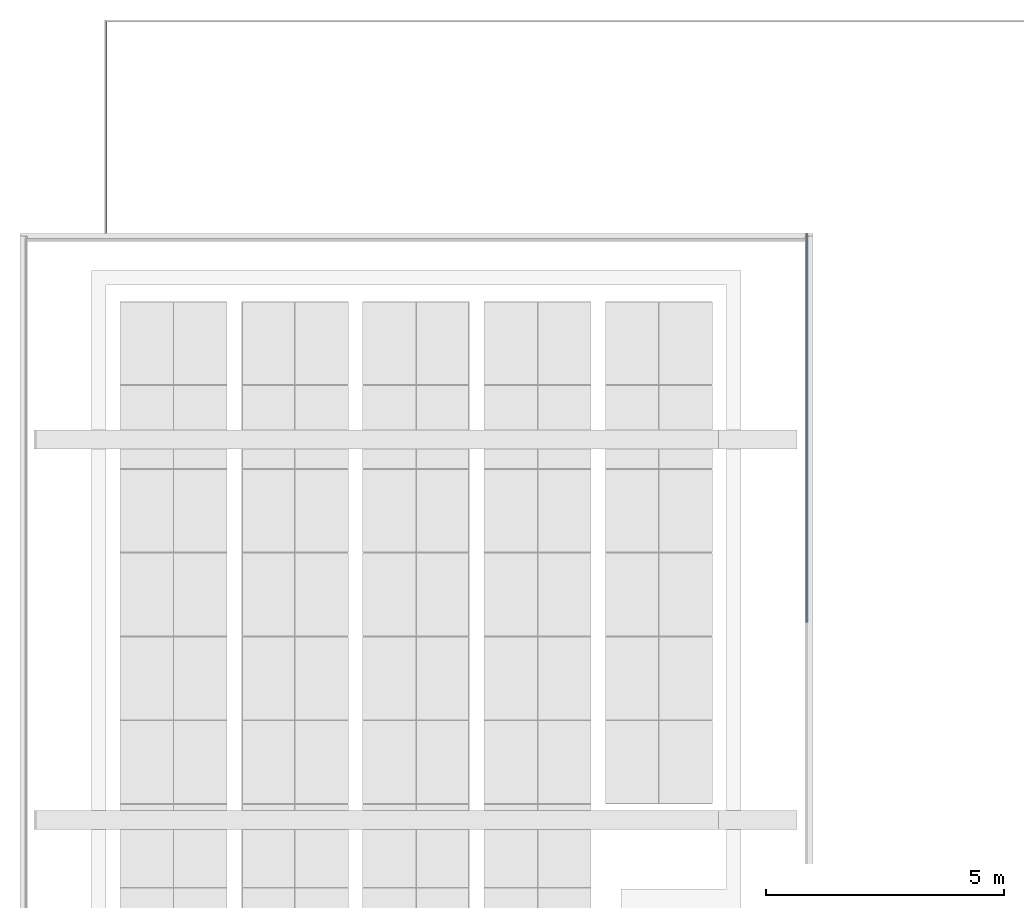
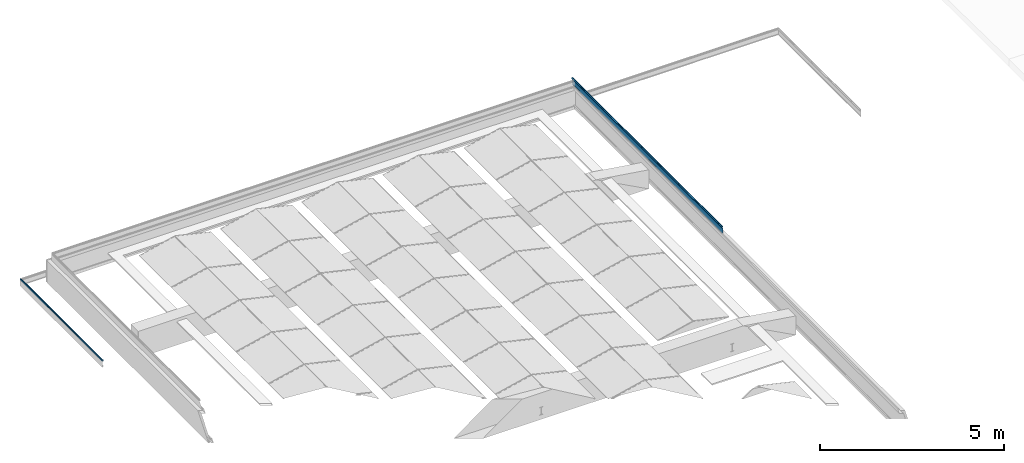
# One storey, part 11 of 25: 3 building element parts, 2 elements without a shape of their own.
"""IFC2X3 building model written with IfcOpenShell, lengths in millimetres."""

from ifc_helpers import new_model, entity, si_unit, converted_unit, derived_unit, money_unit, direction, frame, origin_with_axes, place, context, subcontext, project, spatial, faceted_brep, material, type_object, element, aggregate, save


model = new_model("IFC2X3")

# Units and contexts
model_context = context("Model", 3, precision=0.01, world=origin_with_axes(), true_north=direction((0.0, 1.0)))
body_context = subcontext(model_context, "Body", "Model", "MODEL_VIEW")
ifc_project = project(units=[si_unit("LENGTHUNIT", "METRE", prefix="MILLI"), si_unit("AREAUNIT", "SQUARE_METRE"), si_unit("VOLUMEUNIT", "CUBIC_METRE"), converted_unit("PLANEANGLEUNIT", "DEGREE", entity("IfcPlaneAngleMeasure", 0.0174532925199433), si_unit("PLANEANGLEUNIT", "RADIAN"), dimensions=[0, 0, 0, 0, 0, 0, 0]), money_unit("EUR"), converted_unit("TIMEUNIT", "Year", entity("IfcTimeMeasure", 31557600.0), si_unit("TIMEUNIT", "SECOND"), dimensions=[0, 0, 1, 0, 0, 0, 0]), si_unit("MASSUNIT", "GRAM", prefix="KILO"), si_unit("THERMODYNAMICTEMPERATUREUNIT", "DEGREE_CELSIUS"), si_unit("LUMINOUSINTENSITYUNIT", "LUMEN"), si_unit("ENERGYUNIT", "JOULE", prefix="MEGA"), derived_unit("THERMALCONDUCTANCEUNIT", [(si_unit("POWERUNIT", "WATT"), 1), (si_unit("LENGTHUNIT", "METRE"), -1), (si_unit("THERMODYNAMICTEMPERATUREUNIT", "KELVIN"), -1)]), derived_unit("SPECIFICHEATCAPACITYUNIT", [(si_unit("ENERGYUNIT", "JOULE"), 1), (si_unit("MASSUNIT", "GRAM", prefix="KILO"), -1), (si_unit("THERMODYNAMICTEMPERATUREUNIT", "KELVIN"), -1)]), derived_unit("MASSDENSITYUNIT", [(si_unit("MASSUNIT", "GRAM", prefix="KILO"), 1), (si_unit("VOLUMEUNIT", "CUBIC_METRE"), -1)])], contexts=[model_context])

# Site, building, storey
site_placement = place(None, origin_with_axes())
site = spatial("IfcSite", under=ifc_project, at=site_placement, Name="<site naam>", CompositionType="ELEMENT")
building_placement = place(site_placement, origin_with_axes())
building = spatial("IfcBuilding", under=site, at=building_placement, Name="<Naam gebouw>", CompositionType="ELEMENT")
storey_placement = place(building_placement, frame((0.0, 0.0, 9563.0), z_axis=(0.0, 0.0, 1.0), x_axis=(1.0, 0.0, 0.0)))
storey = spatial("IfcBuildingStorey", under=building, at=storey_placement, Name="03 3e tussenverdieping", CompositionType="ELEMENT", Elevation=9563.0)

# Beam, building element part
beam_type = type_object("IfcBeamType", Name="Aluminium daktrim 45 x 250", PredefinedType="BEAM")
beam_1_placement = place(storey_placement, frame((-10654.07536898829, 24924.99654780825, -5292.000000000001), z_axis=(0.0, 0.0, 1.0), x_axis=(-1.0, 0.0, 0.0)))
beam_1 = element("IfcBeam", 1, at=beam_1_placement, inside=storey, type_object=beam_type, Name="47_Balk_Aluminium", ObjectType="BEAM")
ifc_material = material(Name="aluminium")
building_element_part_1_placement = place(beam_1_placement, origin_with_axes())
building_element_part_1 = element("IfcBuildingElementPart", 2, at=building_element_part_1_placement, material=ifc_material, Name="aluminium", context=body_context, shape_type="Brep", body=[
    faceted_brep([(-121.4991945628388, 4589.996550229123, 294.0656451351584), (-122.2068758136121, 4589.996550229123, 293.7721760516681), (-122.2068758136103, 122.2068758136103, 293.7721760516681), (-121.4991945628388, 121.499194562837, 294.0656451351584), (-110.9991946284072, 4589.996550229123, 294.0656451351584), (-110.2920878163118, 4589.996550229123, 293.7727519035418), (-109.9991945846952, 4589.996550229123, 293.0656450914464), (-109.9991945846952, 4589.996550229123, 250.065645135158), (-110.2920878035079, 4589.996550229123, 249.3585383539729), (-110.9991945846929, 4589.996550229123, 249.0656451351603), (-111.4991731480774, 4589.996550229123, 249.1996073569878), (-117.6977781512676, 4589.996550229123, 252.7781690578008), (-117.9774779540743, 4589.996550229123, 253.142634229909), (-117.9175736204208, 4589.996550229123, 253.598132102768), (-117.5531500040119, 4589.996550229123, 253.8778860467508), (-117.0976432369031, 4589.996550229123, 253.8180493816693), (-113.8976320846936, 4589.996550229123, 251.9718951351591), (-113.8976320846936, 4589.996550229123, 252.5656451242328), (-113.7511854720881, 4589.996550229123, 252.9191985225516), (-113.3976320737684, 4589.996550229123, 253.0656451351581), (-113.1984133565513, 4589.996550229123, 253.0656451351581), (-112.8448599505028, 4589.996550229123, 252.9191985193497), (-112.6984133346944, 4589.996550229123, 252.5656451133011), (-112.6984133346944, 4589.996550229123, 251.2785357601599), (-111.9489165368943, 4589.996550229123, 250.8452329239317), (-111.6116899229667, 4589.996550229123, 250.7856033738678), (-111.3150643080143, 4589.996550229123, 250.9567486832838), (-111.1979101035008, 4589.996550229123, 251.2785442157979), (-111.1984133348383, 4589.996550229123, 281.0656535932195), (-111.3448629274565, 4589.996550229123, 281.4192015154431), (-111.6984133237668, 4589.996550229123, 281.5656451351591), (-112.1984133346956, 4589.996550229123, 281.5656451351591), (-112.5519667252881, 4589.996550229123, 281.4191985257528), (-112.6984133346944, 4589.996550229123, 281.0656451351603), (-112.6984133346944, 4589.996550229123, 279.565645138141), (-112.8448599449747, 4589.996550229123, 279.2120917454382), (-113.1984133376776, 4589.996550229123, 279.0656451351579), (-114.9718508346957, 4589.996550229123, 279.0656451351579), (-120.1773366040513, 4589.996550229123, 275.7461395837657), (-120.3116945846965, 4589.996550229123, 275.4250201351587), (-120.5695070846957, 4589.996550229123, 275.3156451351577), (-120.889819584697, 4589.996550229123, 275.4484576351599), (-121.5401955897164, 4589.996550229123, 275.2060759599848), (-121.694507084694, 4589.996550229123, 274.8976763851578), (-121.9640383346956, 4589.996550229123, 274.8078326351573), (-122.2726320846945, 4589.996550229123, 274.9640826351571), (-128.1981216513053, 4589.996550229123, 274.0660308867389), (-154.6486035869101, 4589.996550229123, 274.0656451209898), (-154.8951277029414, 4589.996550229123, 274.1677553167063), (-154.9972414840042, 4589.996550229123, 274.4142779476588), (-154.8947842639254, 4589.996550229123, 274.6611444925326), (-154.6476320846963, 4589.996550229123, 274.7629107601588), (-149.9991945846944, 4589.996550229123, 275.264863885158), (-149.698413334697, 4589.996550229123, 275.5656451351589), (-147.2999758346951, 4589.996550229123, 275.5656451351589), (-146.9991945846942, 4589.996550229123, 275.264863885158), (-143.9991945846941, 4589.996550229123, 275.264863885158), (-143.6984133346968, 4589.996550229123, 275.5656451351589), (-141.2999758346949, 4589.996550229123, 275.5656451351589), (-140.9991945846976, 4589.996550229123, 275.264863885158), (-137.9991945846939, 4589.996550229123, 275.264863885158), (-137.6984133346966, 4589.996550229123, 275.5656451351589), (-135.2999758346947, 4589.996550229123, 275.5656451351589), (-134.9991945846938, 4589.996550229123, 275.264863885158), (-131.9991945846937, 4589.996550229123, 275.264863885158), (-131.6984133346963, 4589.996550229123, 275.5656451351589), (-129.2999758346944, 4589.996550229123, 275.5656451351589), (-128.9991945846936, 4589.996550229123, 275.264863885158), (-128.1984107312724, 4589.996550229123, 275.264863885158), (-120.0158638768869, 4589.996550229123, 277.1388822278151), (-113.4645529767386, 4589.996550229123, 282.3873432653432), (-112.6841977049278, 4589.996550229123, 282.7641787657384), (-112.1970030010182, 4589.996550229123, 282.7648658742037), (-111.4908083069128, 4589.996550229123, 283.0582564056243), (-111.1984133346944, 4589.996550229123, 283.7648638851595), (-111.1984133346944, 4589.996550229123, 292.3664263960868), (-111.3448599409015, 4589.996550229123, 292.719979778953), (-111.6984133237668, 4589.996550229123, 292.8664263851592), (-120.7999758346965, 4589.996550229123, 292.8664263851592), (-121.153529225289, 4589.996550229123, 292.7199797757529), (-121.2999758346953, 4589.996550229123, 292.3664263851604), (-121.2999758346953, 4589.996550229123, 290.6652544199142), (-121.4748532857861, 4589.996550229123, 290.2428198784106), (-121.897145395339, 4589.996550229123, 290.0675987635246), (-122.3197220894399, 4589.996550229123, 290.2421324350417), (-122.4952867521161, 4589.996550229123, 290.6642818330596), (-122.4991919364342, 4589.996550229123, 293.0640177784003), (-122.4991919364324, 122.4991919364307, 293.0640177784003), (-122.4952867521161, 122.4952867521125, 290.6642818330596), (-122.3197220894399, 122.3197220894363, 290.2421324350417), (-121.8971453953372, 121.8971453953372, 290.0675987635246), (-121.4748532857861, 121.4748532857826, 290.2428198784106), (-121.2999758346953, 121.2999758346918, 290.6652544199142), (-121.2999758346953, 121.2999758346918, 292.3664263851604), (-121.153529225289, 121.1535292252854, 292.7199797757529), (-120.7999758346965, 120.7999758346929, 292.8664263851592), (-111.6984133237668, 111.6984133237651, 292.8664263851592), (-111.3448599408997, 111.3448599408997, 292.719979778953), (-111.1984133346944, 111.1984133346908, 292.3664263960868), (-111.1984133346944, 111.1984133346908, 283.7648638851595), (-111.490808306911, 111.490808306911, 283.0582564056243), (-112.1970030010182, 112.1970030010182, 282.7648658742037), (-112.6841977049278, 112.684197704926, 282.7641787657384), (-113.4645529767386, 113.4645529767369, 282.3873432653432), (-120.0158638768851, 120.0158638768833, 277.1388822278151), (-128.1984107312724, 128.1984107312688, 275.264863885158), (-128.9991945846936, 128.99919458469, 275.264863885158), (-129.2999758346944, 129.2999758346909, 275.5656451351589), (-131.6984133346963, 131.6984133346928, 275.5656451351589), (-131.9991945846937, 131.9991945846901, 275.264863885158), (-134.9991945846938, 134.9991945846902, 275.264863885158), (-135.2999758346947, 135.2999758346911, 275.5656451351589), (-137.6984133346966, 137.698413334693, 275.5656451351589), (-137.9991945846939, 137.9991945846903, 275.264863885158), (-140.9991945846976, 140.999194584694, 275.264863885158), (-141.2999758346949, 141.2999758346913, 275.5656451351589), (-143.6984133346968, 143.6984133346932, 275.5656451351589), (-143.9991945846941, 143.9991945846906, 275.264863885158), (-146.9991945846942, 146.9991945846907, 275.264863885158), (-147.2999758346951, 147.2999758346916, 275.5656451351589), (-149.698413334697, 149.6984133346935, 275.5656451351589), (-149.9991945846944, 149.9991945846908, 275.264863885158), (-154.6476320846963, 154.6476320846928, 274.7629107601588), (-154.8947842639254, 154.8947842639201, 274.6611444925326), (-154.9972414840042, 154.9972414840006, 274.4142779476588), (-154.8951277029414, 154.8951277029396, 274.1677553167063), (-154.6486035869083, 154.6486035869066, 274.0656451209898), (-128.1981216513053, 128.1981216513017, 274.0660308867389), (-122.2726320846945, 122.272632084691, 274.9640826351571), (-121.9640383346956, 121.964038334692, 274.8078326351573), (-121.694507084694, 121.6945070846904, 274.8976763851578), (-121.5401955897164, 121.5401955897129, 275.2060759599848), (-120.889819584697, 120.8898195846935, 275.4484576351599), (-120.5695070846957, 120.5695070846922, 275.3156451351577), (-120.3116945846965, 120.3116945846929, 275.4250201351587), (-120.1773366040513, 120.1773366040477, 275.7461395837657), (-114.9718508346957, 114.9718508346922, 279.0656451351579), (-113.1984133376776, 113.198413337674, 279.0656451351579), (-112.8448599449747, 112.8448599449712, 279.2120917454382), (-112.6984133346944, 112.6984133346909, 279.565645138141), (-112.6984133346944, 112.6984133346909, 281.0656451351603), (-112.5519667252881, 112.5519667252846, 281.4191985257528), (-112.1984133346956, 112.198413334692, 281.5656451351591), (-111.6984133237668, 111.6984133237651, 281.5656451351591), (-111.3448629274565, 111.3448629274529, 281.4192015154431), (-111.1984133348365, 111.1984133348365, 281.0656535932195), (-111.1979101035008, 111.197910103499, 251.2785442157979), (-111.3150643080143, 111.3150643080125, 250.9567486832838), (-111.6116899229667, 111.6116899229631, 250.7856033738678), (-111.9489165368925, 111.9489165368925, 250.8452329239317), (-112.6984133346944, 112.6984133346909, 251.2785357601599), (-112.6984133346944, 112.6984133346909, 252.5656451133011), (-112.8448599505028, 112.8448599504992, 252.9191985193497), (-113.1984133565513, 113.1984133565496, 253.0656451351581), (-113.3976320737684, 113.3976320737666, 253.0656451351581), (-113.7511854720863, 113.7511854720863, 252.9191985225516), (-113.8976320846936, 113.8976320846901, 252.5656451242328), (-113.8976320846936, 113.8976320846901, 251.9718951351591), (-117.0976432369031, 117.0976432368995, 253.8180493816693), (-117.5531500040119, 117.5531500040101, 253.8778860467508), (-117.917573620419, 117.9175736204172, 253.598132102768), (-117.9774779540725, 117.9774779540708, 253.142634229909), (-117.6977781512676, 117.697778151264, 252.7781690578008), (-111.4991731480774, 111.4991731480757, 249.1996073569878), (-110.9991945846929, 110.9991945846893, 249.0656451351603), (-110.2920878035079, 110.2920878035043, 249.3585383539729), (-109.9991945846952, 109.9991945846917, 250.065645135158), (-109.9991945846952, 109.9991945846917, 293.0656450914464), (-110.2920878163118, 110.2920878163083, 293.7727519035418), (-110.9991946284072, 110.9991946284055, 294.0656451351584)], [[[0, 1, 2, 3]], [[0, 4, 5, 6, 7, 8, 9, 10, 11, 12, 13, 14, 15, 16, 17, 18, 19, 20, 21, 22, 23, 24, 25, 26, 27, 28, 29, 30, 31, 32, 33, 34, 35, 36, 37, 38, 39, 40, 41, 42, 43, 44, 45, 46, 47, 48, 49, 50, 51, 52, 53, 54, 55, 56, 57, 58, 59, 60, 61, 62, 63, 64, 65, 66, 67, 68, 69, 70, 71, 72, 73, 74, 75, 76, 77, 78, 79, 80, 81, 82, 83, 84, 85, 86, 1]], [[1, 86, 87, 2]], [[3, 2, 87, 88, 89, 90, 91, 92, 93, 94, 95, 96, 97, 98, 99, 100, 101, 102, 103, 104, 105, 106, 107, 108, 109, 110, 111, 112, 113, 114, 115, 116, 117, 118, 119, 120, 121, 122, 123, 124, 125, 126, 127, 128, 129, 130, 131, 132, 133, 134, 135, 136, 137, 138, 139, 140, 141, 142, 143, 144, 145, 146, 147, 148, 149, 150, 151, 152, 153, 154, 155, 156, 157, 158, 159, 160, 161, 162, 163, 164, 165, 166, 167, 168, 169]], [[4, 0, 3, 169]], [[5, 4, 169, 168]], [[6, 5, 168, 167]], [[7, 6, 167, 166]], [[8, 7, 166, 165]], [[9, 8, 165, 164]], [[10, 9, 164, 163]], [[11, 10, 163, 162]], [[12, 11, 162, 161]], [[13, 12, 161, 160]], [[14, 13, 160, 159]], [[15, 14, 159, 158]], [[16, 15, 158, 157]], [[17, 16, 157, 156]], [[18, 17, 156, 155]], [[19, 18, 155, 154]], [[20, 19, 154, 153]], [[21, 20, 153, 152]], [[22, 21, 152, 151]], [[23, 22, 151, 150]], [[24, 23, 150, 149]], [[25, 24, 149, 148]], [[26, 25, 148, 147]], [[27, 26, 147, 146]], [[28, 27, 146, 145]], [[29, 28, 145, 144]], [[30, 29, 144, 143]], [[31, 30, 143, 142]], [[32, 31, 142, 141]], [[33, 32, 141, 140]], [[34, 33, 140, 139]], [[35, 34, 139, 138]], [[36, 35, 138, 137]], [[37, 36, 137, 136]], [[38, 37, 136, 135]], [[39, 38, 135, 134]], [[40, 39, 134, 133]], [[41, 40, 133, 132]], [[42, 41, 132, 131]], [[43, 42, 131, 130]], [[44, 43, 130, 129]], [[45, 44, 129, 128]], [[46, 45, 128, 127]], [[47, 46, 127, 126]], [[48, 47, 126, 125]], [[49, 48, 125, 124]], [[50, 49, 124, 123]], [[51, 50, 123, 122]], [[52, 51, 122, 121]], [[53, 52, 121, 120]], [[54, 53, 120, 119]], [[55, 54, 119, 118]], [[56, 55, 118, 117]], [[57, 56, 117, 116]], [[58, 57, 116, 115]], [[59, 58, 115, 114]], [[60, 59, 114, 113]], [[61, 60, 113, 112]], [[62, 61, 112, 111]], [[63, 62, 111, 110]], [[64, 63, 110, 109]], [[65, 64, 109, 108]], [[66, 65, 108, 107]], [[67, 66, 107, 106]], [[68, 67, 106, 105]], [[69, 68, 105, 104]], [[70, 69, 104, 103]], [[71, 70, 103, 102]], [[72, 71, 102, 101]], [[73, 72, 101, 100]], [[74, 73, 100, 99]], [[75, 74, 99, 98]], [[76, 75, 98, 97]], [[77, 76, 97, 96]], [[78, 77, 96, 95]], [[79, 78, 95, 94]], [[80, 79, 94, 93]], [[81, 80, 93, 92]], [[82, 81, 92, 91]], [[83, 82, 91, 90]], [[84, 83, 90, 89]], [[85, 84, 89, 88]], [[86, 85, 88, 87]]]),
])
aggregate(beam_1, [building_element_part_1])

# Beam, building element parts
beam_2_placement = place(storey_placement, frame((4335.04446815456, 12159.96567299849, -1057.000005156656), z_axis=(0.0, 0.0, 1.0), x_axis=(1.0, 0.0, 0.0)))
beam_2 = element("IfcBeam", 3, at=beam_2_placement, inside=storey, type_object=beam_type, Name="47_Balk_Aluminium", ObjectType="BEAM")
building_element_part_2_placement = place(beam_2_placement, origin_with_axes())
building_element_part_2 = element("IfcBuildingElementPart", 4, at=building_element_part_2_placement, material=ifc_material, Name="aluminium", context=body_context, shape_type="Brep", body=[
    faceted_brep([(-110.2920878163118, 0.01603068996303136, 293.7727519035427), (-109.9991945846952, 0.01603068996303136, 293.0656450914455), (-109.9991945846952, 8175.034324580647, 293.0656450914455), (-110.2920878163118, 8175.034324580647, 293.7727519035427), (-109.9991945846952, 0.01603068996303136, 250.0656451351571), (-110.9991946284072, 0.01603068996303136, 294.0656451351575), (-121.4991945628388, 0.01603068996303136, 294.0656451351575), (-122.2068758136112, 0.01603068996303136, 293.7721760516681), (-122.4991919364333, 0.01603068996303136, 293.0640177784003), (-122.4952867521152, 0.01603068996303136, 290.6642818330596), (-122.3197220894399, 0.01603068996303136, 290.2421324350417), (-121.8971453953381, 0.01603068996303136, 290.0675987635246), (-121.4748532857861, 0.01603068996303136, 290.2428198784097), (-121.2999758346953, 0.01603068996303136, 290.6652544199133), (-121.2999758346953, 0.01603068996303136, 292.3664263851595), (-121.153529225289, 0.01603068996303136, 292.7199797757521), (-120.7999758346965, 0.01603068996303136, 292.8664263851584), (-111.6984133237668, 0.01603068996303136, 292.8664263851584), (-111.3448599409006, 0.01603068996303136, 292.719979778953), (-111.1984133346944, 0.01603068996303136, 292.3664263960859), (-111.1984133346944, 0.01603068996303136, 283.7648638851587), (-111.490808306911, 0.01603068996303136, 283.0582564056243), (-112.1970030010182, 0.01603068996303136, 282.7648658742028), (-112.6841977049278, 0.01603068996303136, 282.7641787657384), (-113.4645529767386, 0.01603068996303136, 282.3873432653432), (-120.015863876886, 0.01603068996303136, 277.1388822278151), (-128.1984107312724, 0.01603068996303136, 275.2648638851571), (-128.9991945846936, 0.01603068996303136, 275.2648638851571), (-129.2999758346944, 0.01603068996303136, 275.565645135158), (-131.6984133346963, 0.01603068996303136, 275.565645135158), (-131.9991945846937, 0.01603068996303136, 275.2648638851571), (-134.9991945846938, 0.01603068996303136, 275.2648638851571), (-135.2999758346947, 0.01603068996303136, 275.565645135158), (-137.6984133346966, 0.01603068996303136, 275.565645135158), (-137.9991945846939, 0.01603068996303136, 275.2648638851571), (-140.9991945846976, 0.01603068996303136, 275.2648638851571), (-141.2999758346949, 0.01603068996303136, 275.565645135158), (-143.6984133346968, 0.01603068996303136, 275.565645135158), (-143.9991945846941, 0.01603068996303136, 275.2648638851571), (-146.9991945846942, 0.01603068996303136, 275.2648638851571), (-147.2999758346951, 0.01603068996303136, 275.565645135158), (-149.698413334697, 0.01603068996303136, 275.565645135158), (-149.9991945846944, 0.01603068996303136, 275.2648638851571), (-154.6476320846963, 0.01603068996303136, 274.7629107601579), (-154.8947842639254, 0.01603068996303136, 274.6611444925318), (-154.9972414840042, 0.01603068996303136, 274.4142779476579), (-154.8951277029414, 0.01603068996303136, 274.1677553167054), (-154.6486035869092, 0.01603068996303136, 274.0656451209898), (-128.1981216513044, 0.01603068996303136, 274.066030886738), (-122.2726320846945, 0.01603068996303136, 274.9640826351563), (-121.9640383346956, 0.01603068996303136, 274.8078326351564), (-121.694507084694, 0.01603068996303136, 274.897676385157), (-121.5401955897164, 0.01603068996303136, 275.2060759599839), (-120.889819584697, 0.01603068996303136, 275.448457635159), (-120.5695070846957, 0.01603068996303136, 275.3156451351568), (-120.3116945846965, 0.01603068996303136, 275.4250201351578), (-120.1773366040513, 0.01603068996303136, 275.7461395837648), (-114.9718508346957, 0.01603068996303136, 279.065645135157), (-113.1984133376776, 0.01603068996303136, 279.065645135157), (-112.8448599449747, 0.01603068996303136, 279.212091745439), (-112.6984133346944, 0.01603068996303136, 279.5656451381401), (-112.6984133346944, 0.01603068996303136, 281.0656451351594), (-112.5519667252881, 0.01603068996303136, 281.4191985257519), (-112.1984133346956, 0.01603068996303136, 281.5656451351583), (-111.6984133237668, 0.01603068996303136, 281.5656451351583), (-111.3448629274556, 0.01603068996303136, 281.419201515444), (-111.1984133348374, 0.01603068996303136, 281.0656535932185), (-111.1979101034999, 0.01603068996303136, 251.278544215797), (-111.3150643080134, 0.01603068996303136, 250.9567486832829), (-111.6116899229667, 0.01603068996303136, 250.7856033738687), (-111.9489165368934, 0.01603068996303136, 250.8452329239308), (-112.6984133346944, 0.01603068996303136, 251.278535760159), (-112.6984133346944, 0.01603068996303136, 252.5656451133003), (-112.8448599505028, 0.01603068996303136, 252.9191985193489), (-113.1984133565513, 0.01603068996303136, 253.0656451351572), (-113.3976320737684, 0.01603068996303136, 253.0656451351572), (-113.7511854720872, 0.01603068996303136, 252.9191985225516), (-113.8976320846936, 0.01603068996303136, 252.565645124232), (-113.8976320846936, 0.01603068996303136, 251.9718951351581), (-117.0976432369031, 0.01603068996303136, 253.8180493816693), (-117.5531500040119, 0.01603068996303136, 253.8778860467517), (-117.9175736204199, 0.01603068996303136, 253.598132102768), (-117.9774779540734, 0.01603068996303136, 253.1426342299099), (-117.6977781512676, 0.01603068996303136, 252.7781690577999), (-111.4991731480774, 0.01603068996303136, 249.1996073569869), (-110.9991945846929, 0.01603068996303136, 249.0656451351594), (-110.2920878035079, 0.01603068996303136, 249.3585383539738), (-109.9991945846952, 8175.034324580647, 250.0656451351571), (-122.2068758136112, 8175.034324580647, 293.7721760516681), (-121.4991945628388, 8175.034324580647, 294.0656451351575), (-110.9991946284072, 8175.034324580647, 294.0656451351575), (-110.2920878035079, 8175.034324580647, 249.3585383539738), (-110.9991945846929, 8175.034324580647, 249.0656451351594), (-111.4991731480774, 8175.034324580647, 249.1996073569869), (-117.6977781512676, 8175.034324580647, 252.7781690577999), (-117.9774779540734, 8175.034324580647, 253.1426342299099), (-117.9175736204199, 8175.034324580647, 253.598132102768), (-117.5531500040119, 8175.034324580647, 253.8778860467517), (-117.0976432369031, 8175.034324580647, 253.8180493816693), (-113.8976320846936, 8175.034324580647, 251.9718951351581), (-113.8976320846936, 8175.034324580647, 252.565645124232), (-113.7511854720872, 8175.034324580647, 252.9191985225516), (-113.3976320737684, 8175.034324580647, 253.0656451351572), (-113.1984133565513, 8175.034324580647, 253.0656451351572), (-112.8448599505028, 8175.034324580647, 252.9191985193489), (-112.6984133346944, 8175.034324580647, 252.5656451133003), (-112.6984133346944, 8175.034324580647, 251.278535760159), (-111.9489165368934, 8175.034324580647, 250.8452329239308), (-111.6116899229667, 8175.034324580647, 250.7856033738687), (-111.3150643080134, 8175.034324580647, 250.9567486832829), (-111.1979101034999, 8175.034324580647, 251.278544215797), (-111.1984133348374, 8175.034324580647, 281.0656535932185), (-111.3448629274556, 8175.034324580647, 281.419201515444), (-111.6984133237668, 8175.034324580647, 281.5656451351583), (-112.1984133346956, 8175.034324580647, 281.5656451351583), (-112.5519667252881, 8175.034324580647, 281.4191985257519), (-112.6984133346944, 8175.034324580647, 281.0656451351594), (-112.6984133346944, 8175.034324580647, 279.5656451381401), (-112.8448599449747, 8175.034324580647, 279.212091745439), (-113.1984133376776, 8175.034324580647, 279.065645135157), (-114.9718508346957, 8175.034324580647, 279.065645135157), (-120.1773366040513, 8175.034324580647, 275.7461395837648), (-120.3116945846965, 8175.034324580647, 275.4250201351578), (-120.5695070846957, 8175.034324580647, 275.3156451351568), (-120.889819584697, 8175.034324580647, 275.448457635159), (-121.5401955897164, 8175.034324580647, 275.2060759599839), (-121.694507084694, 8175.034324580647, 274.897676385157), (-121.9640383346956, 8175.034324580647, 274.8078326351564), (-122.2726320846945, 8175.034324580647, 274.9640826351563), (-128.1981216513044, 8175.034324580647, 274.066030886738), (-154.6486035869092, 8175.034324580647, 274.0656451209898), (-154.8951277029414, 8175.034324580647, 274.1677553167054), (-154.9972414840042, 8175.034324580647, 274.4142779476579), (-154.8947842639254, 8175.034324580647, 274.6611444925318), (-154.6476320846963, 8175.034324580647, 274.7629107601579), (-149.9991945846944, 8175.034324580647, 275.2648638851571), (-149.698413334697, 8175.034324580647, 275.565645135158), (-147.2999758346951, 8175.034324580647, 275.565645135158), (-146.9991945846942, 8175.034324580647, 275.2648638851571), (-143.9991945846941, 8175.034324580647, 275.2648638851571), (-143.6984133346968, 8175.034324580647, 275.565645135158), (-141.2999758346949, 8175.034324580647, 275.565645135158), (-140.9991945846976, 8175.034324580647, 275.2648638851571), (-137.9991945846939, 8175.034324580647, 275.2648638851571), (-137.6984133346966, 8175.034324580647, 275.565645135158), (-135.2999758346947, 8175.034324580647, 275.565645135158), (-134.9991945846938, 8175.034324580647, 275.2648638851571), (-131.9991945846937, 8175.034324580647, 275.2648638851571), (-131.6984133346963, 8175.034324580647, 275.565645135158), (-129.2999758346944, 8175.034324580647, 275.565645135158), (-128.9991945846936, 8175.034324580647, 275.2648638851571), (-128.1984107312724, 8175.034324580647, 275.2648638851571), (-120.015863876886, 8175.034324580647, 277.1388822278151), (-113.4645529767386, 8175.034324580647, 282.3873432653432), (-112.6841977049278, 8175.034324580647, 282.7641787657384), (-112.1970030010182, 8175.034324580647, 282.7648658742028), (-111.490808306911, 8175.034324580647, 283.0582564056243), (-111.1984133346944, 8175.034324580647, 283.7648638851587), (-111.1984133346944, 8175.034324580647, 292.3664263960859), (-111.3448599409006, 8175.034324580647, 292.719979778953), (-111.6984133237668, 8175.034324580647, 292.8664263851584), (-120.7999758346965, 8175.034324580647, 292.8664263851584), (-121.153529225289, 8175.034324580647, 292.7199797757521), (-121.2999758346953, 8175.034324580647, 292.3664263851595), (-121.2999758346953, 8175.034324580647, 290.6652544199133), (-121.4748532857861, 8175.034324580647, 290.2428198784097), (-121.8971453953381, 8175.034324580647, 290.0675987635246), (-122.3197220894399, 8175.034324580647, 290.2421324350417), (-122.4952867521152, 8175.034324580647, 290.6642818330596), (-122.4991919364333, 8175.034324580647, 293.0640177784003)], [[[0, 1, 2, 3]], [[4, 1, 0, 5, 6, 7, 8, 9, 10, 11, 12, 13, 14, 15, 16, 17, 18, 19, 20, 21, 22, 23, 24, 25, 26, 27, 28, 29, 30, 31, 32, 33, 34, 35, 36, 37, 38, 39, 40, 41, 42, 43, 44, 45, 46, 47, 48, 49, 50, 51, 52, 53, 54, 55, 56, 57, 58, 59, 60, 61, 62, 63, 64, 65, 66, 67, 68, 69, 70, 71, 72, 73, 74, 75, 76, 77, 78, 79, 80, 81, 82, 83, 84, 85, 86]], [[1, 4, 87, 2]], [[88, 89, 90, 3, 2, 87, 91, 92, 93, 94, 95, 96, 97, 98, 99, 100, 101, 102, 103, 104, 105, 106, 107, 108, 109, 110, 111, 112, 113, 114, 115, 116, 117, 118, 119, 120, 121, 122, 123, 124, 125, 126, 127, 128, 129, 130, 131, 132, 133, 134, 135, 136, 137, 138, 139, 140, 141, 142, 143, 144, 145, 146, 147, 148, 149, 150, 151, 152, 153, 154, 155, 156, 157, 158, 159, 160, 161, 162, 163, 164, 165, 166, 167, 168, 169]], [[5, 0, 3, 90]], [[6, 5, 90, 89]], [[7, 6, 89, 88]], [[8, 7, 88, 169]], [[9, 8, 169, 168]], [[10, 9, 168, 167]], [[11, 10, 167, 166]], [[12, 11, 166, 165]], [[13, 12, 165, 164]], [[14, 13, 164, 163]], [[15, 14, 163, 162]], [[16, 15, 162, 161]], [[17, 16, 161, 160]], [[18, 17, 160, 159]], [[19, 18, 159, 158]], [[20, 19, 158, 157]], [[21, 20, 157, 156]], [[22, 21, 156, 155]], [[23, 22, 155, 154]], [[24, 23, 154, 153]], [[25, 24, 153, 152]], [[26, 25, 152, 151]], [[27, 26, 151, 150]], [[28, 27, 150, 149]], [[29, 28, 149, 148]], [[30, 29, 148, 147]], [[31, 30, 147, 146]], [[32, 31, 146, 145]], [[33, 32, 145, 144]], [[34, 33, 144, 143]], [[35, 34, 143, 142]], [[36, 35, 142, 141]], [[37, 36, 141, 140]], [[38, 37, 140, 139]], [[39, 38, 139, 138]], [[40, 39, 138, 137]], [[41, 40, 137, 136]], [[42, 41, 136, 135]], [[43, 42, 135, 134]], [[44, 43, 134, 133]], [[45, 44, 133, 132]], [[46, 45, 132, 131]], [[47, 46, 131, 130]], [[48, 47, 130, 129]], [[49, 48, 129, 128]], [[50, 49, 128, 127]], [[51, 50, 127, 126]], [[52, 51, 126, 125]], [[53, 52, 125, 124]], [[54, 53, 124, 123]], [[55, 54, 123, 122]], [[56, 55, 122, 121]], [[57, 56, 121, 120]], [[58, 57, 120, 119]], [[59, 58, 119, 118]], [[60, 59, 118, 117]], [[61, 60, 117, 116]], [[62, 61, 116, 115]], [[63, 62, 115, 114]], [[64, 63, 114, 113]], [[65, 64, 113, 112]], [[66, 65, 112, 111]], [[67, 66, 111, 110]], [[68, 67, 110, 109]], [[69, 68, 109, 108]], [[70, 69, 108, 107]], [[71, 70, 107, 106]], [[72, 71, 106, 105]], [[73, 72, 105, 104]], [[74, 73, 104, 103]], [[75, 74, 103, 102]], [[76, 75, 102, 101]], [[77, 76, 101, 100]], [[78, 77, 100, 99]], [[79, 78, 99, 98]], [[80, 79, 98, 97]], [[81, 80, 97, 96]], [[82, 81, 96, 95]], [[83, 82, 95, 94]], [[84, 83, 94, 93]], [[85, 84, 93, 92]], [[86, 85, 92, 91]], [[4, 86, 91, 87]]]),
])
building_element_part_3_placement = place(beam_2_placement, origin_with_axes())
building_element_part_3 = element("IfcBuildingElementPart", 5, at=building_element_part_3_placement, material=ifc_material, Name="aluminium", context=body_context, shape_type="Brep", body=[
    faceted_brep([(-141.8058874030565, 0.01603068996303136, 243.1686919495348), (-110.0058874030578, 0.01603068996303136, 239.0654661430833), (-110.0058874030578, 8175.034324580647, 239.0654661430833), (-141.8058874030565, 8175.034324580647, 243.1686919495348), (-110.0058874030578, 0.01603068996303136, 44.56563661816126), (-141.8058874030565, 0.01603068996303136, 253.0654661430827), (-143.0058874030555, 0.01603068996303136, 253.0654661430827), (-143.0058874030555, 0.01603068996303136, 241.8720983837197), (-111.1979101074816, 0.01603068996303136, 237.7678423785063), (-111.1979101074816, 0.01603068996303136, 45.7656366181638), (-114.0058874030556, 0.01603068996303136, 45.7656366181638), (-114.0058874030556, 0.01603068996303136, 61.56563661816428), (-115.2058874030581, 0.01603068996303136, 61.56563661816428), (-115.2058874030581, 0.01603068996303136, 44.56563661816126), (-110.0058874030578, 8175.034324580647, 44.56563661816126), (-111.1979101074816, 8175.034324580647, 237.7678423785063), (-143.0058874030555, 8175.034324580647, 241.8720983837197), (-143.0058874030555, 8175.034324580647, 253.0654661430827), (-141.8058874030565, 8175.034324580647, 253.0654661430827), (-115.2058874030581, 8175.034324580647, 44.56563661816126), (-115.2058874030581, 8175.034324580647, 61.56563661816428), (-114.0058874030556, 8175.034324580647, 61.56563661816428), (-114.0058874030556, 8175.034324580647, 45.7656366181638), (-111.1979101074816, 8175.034324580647, 45.7656366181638)], [[[0, 1, 2, 3]], [[4, 1, 0, 5, 6, 7, 8, 9, 10, 11, 12, 13]], [[1, 4, 14, 2]], [[15, 16, 17, 18, 3, 2, 14, 19, 20, 21, 22, 23]], [[5, 0, 3, 18]], [[6, 5, 18, 17]], [[7, 6, 17, 16]], [[8, 7, 16, 15]], [[9, 8, 15, 23]], [[10, 9, 23, 22]], [[11, 10, 22, 21]], [[12, 11, 21, 20]], [[13, 12, 20, 19]], [[4, 13, 19, 14]]]),
])
aggregate(beam_2, [building_element_part_2, building_element_part_3])

save(model, "model.ifc")
